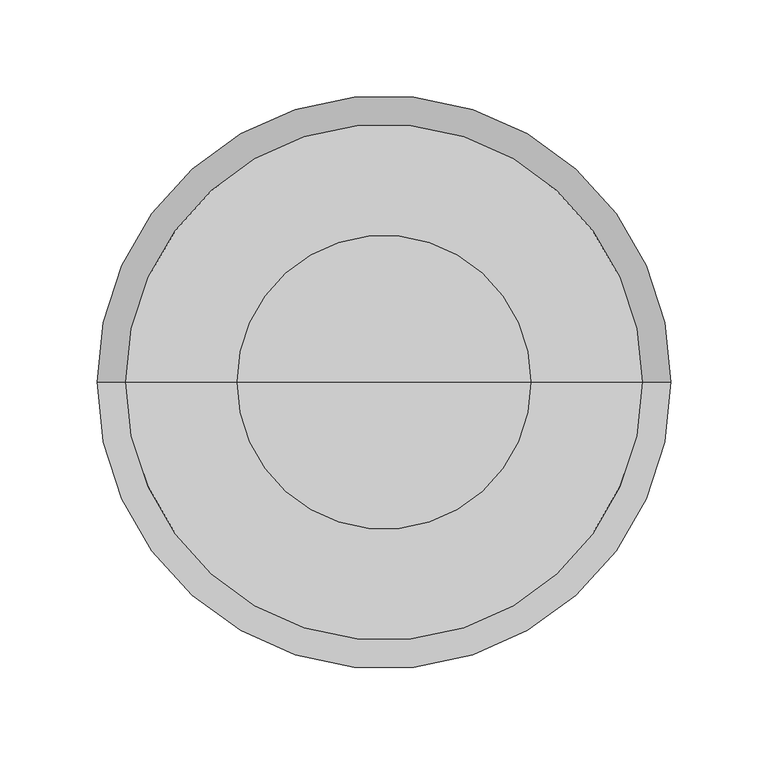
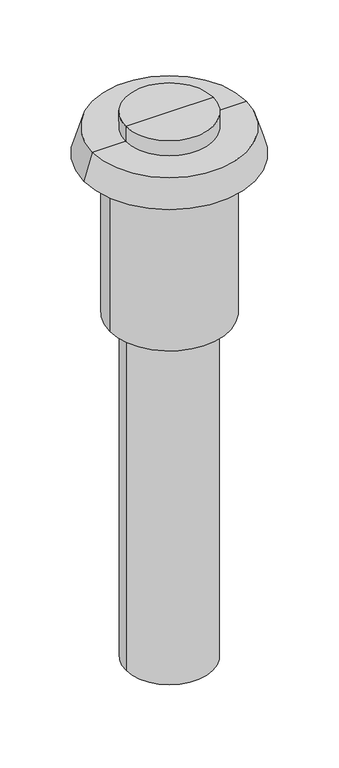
"""IFC4 building model written with IfcOpenShell, lengths in millimetres: air terminal geometry, NLRS_57_AIR_WPB_roof ventilation terminals_M&G : EPS Terra, ø150 - L=1000mm."""

from ifc_helpers import new_model, si_unit, frame, origin, place, context, project, spatial, polyline, circle_curve, source, transform, mapped, element, save
from ifc_brep_helpers import plane_surface, cylinder_surface, revolved_surface, advanced_brep


def air_terminal_7d90cc17(model_context):
    return source(origin(), model_context, "Body", "AdvancedBrep", [
        advanced_brep(
        [(75.7, 0.0, 365.0), (-75.7, 0.0, 365.0), (0.0, 0.0, 365.0), (75.7, 0.0, 338.0), (-75.7, 0.0, 338.0), (0.0, 0.0, 338.0)],
        [
            (0, 1, circle_curve(frame((0.0, 0.0, 365.0), z_axis=(0.0, 0.0, 1.0), x_axis=(-1.0, 0.0, 0.0)), 75.7)),
            (1, 2),
            (2, 0),
            (1, 0, circle_curve(frame((0.0, 0.0, 365.0), z_axis=(0.0, 0.0, 1.0), x_axis=(-1.0, 0.0, 0.0)), 75.7)),
            (3, 4, circle_curve(frame((0.0, 0.0, 338.0), z_axis=(0.0, 0.0, 1.0), x_axis=(-1.0, 0.0, 0.0)), 75.7)),
            (4, 1),
            (0, 3),
            (4, 3, circle_curve(frame((0.0, 0.0, 338.0), z_axis=(0.0, 0.0, 1.0), x_axis=(-1.0, 0.0, 0.0)), 75.7)),
            (5, 4),
            (3, 5),
        ],
        [
            plane_surface(frame((0.0, 0.0, 365.0), z_axis=(0.0, 0.0, 1.0), x_axis=(-1.0, 0.0, 0.0))),
            cylinder_surface(frame((0.0, 0.0, 2068.3150031), z_axis=(0.0, 0.0, -1.0), x_axis=(-1.0, 0.0, 0.0)), 75.7),
            plane_surface(frame((0.0, 0.0, 338.0), z_axis=(0.0, 0.0, -1.0), x_axis=(-1.0, 0.0, 0.0))),
        ],
        [
            (0, [[1, 2, 3]]),
            (0, [[4, -3, -2]]),
            (1, [[5, 6, -1, 7]]),
            (1, [[8, -7, -4, -6]]),
            (2, [[9, -5, 10]]),
            (2, [[-10, -8, -9]]),
        ],
    ),
        advanced_brep(
        [(103.2, 0.0, 290.0), (-103.2, 0.0, 290.0), (0.0, 0.0, 290.0), (103.2, 0.0, 0.0), (-103.2, 0.0, 0.0), (0.0, 0.0, 0.0)],
        [
            (0, 1, circle_curve(frame((0.0, 0.0, 290.0), z_axis=(0.0, 0.0, 1.0), x_axis=(-1.0, 0.0, 0.0)), 103.2)),
            (1, 2),
            (2, 0),
            (1, 0, circle_curve(frame((0.0, 0.0, 290.0), z_axis=(0.0, 0.0, 1.0), x_axis=(-1.0, 0.0, 0.0)), 103.2)),
            (3, 4, circle_curve(frame((0.0, 0.0, 0.0), z_axis=(0.0, 0.0, 1.0), x_axis=(-1.0, 0.0, 0.0)), 103.2)),
            (4, 1),
            (0, 3),
            (4, 3, circle_curve(frame((0.0, 0.0, 0.0), z_axis=(0.0, 0.0, 1.0), x_axis=(-1.0, 0.0, 0.0)), 103.2)),
            (5, 4),
            (3, 5),
        ],
        [
            plane_surface(frame((0.0, 0.0, 290.0), z_axis=(0.0, 0.0, 1.0), x_axis=(-1.0, 0.0, 0.0))),
            cylinder_surface(frame((0.0, 0.0, 2112.3150031), z_axis=(0.0, 0.0, -1.0), x_axis=(-1.0, 0.0, 0.0)), 103.2),
            plane_surface(frame((0.0, 0.0, 0.0), z_axis=(0.0, 0.0, -1.0), x_axis=(-1.0, 0.0, 0.0))),
        ],
        [
            (0, [[1, 2, 3]]),
            (0, [[4, -3, -2]]),
            (1, [[5, 6, -1, 7]]),
            (1, [[8, -7, -4, -6]]),
            (2, [[9, -5, 10]]),
            (2, [[-10, -8, -9]]),
        ],
    ),
        advanced_brep(
        [(133.0, 0.0, 338.0), (-133.0, 0.0, 338.0), (0.0, 0.0, 338.0), (147.75, 0.0, 290.0), (-147.75, 0.0, 290.0), (0.0, 0.0, 290.0)],
        [
            (0, 1, circle_curve(frame((0.0, 0.0, 338.0), z_axis=(0.0, 0.0, 1.0), x_axis=(-1.0, 0.0, 0.0)), 133.0)),
            (1, 2),
            (2, 0),
            (1, 0, circle_curve(frame((0.0, 0.0, 338.0), z_axis=(0.0, 0.0, 1.0), x_axis=(-1.0, 0.0, 0.0)), 133.0)),
            (3, 4, circle_curve(frame((0.0, 0.0, 290.0), z_axis=(0.0, 0.0, 1.0), x_axis=(-1.0, 0.0, 0.0)), 147.75)),
            (4, 1),
            (0, 3),
            (4, 3, circle_curve(frame((0.0, 0.0, 290.0), z_axis=(0.0, 0.0, 1.0), x_axis=(-1.0, 0.0, 0.0)), 147.75)),
            (5, 4),
            (3, 5),
        ],
        [
            plane_surface(frame((0.0, 0.0, 338.0), z_axis=(0.0, 0.0, 1.0), x_axis=(-1.0, 0.0, 0.0))),
            revolved_surface(polyline([(-133.0, 0.0, 338.0), (-147.75, 0.0, 290.0)]), (0.0, 0.0, 2058.3150031), (0.0, 0.0, -1.0)),
            plane_surface(frame((0.0, 0.0, 290.0), z_axis=(0.0, 0.0, -1.0), x_axis=(-1.0, 0.0, 0.0))),
        ],
        [
            (0, [[1, 2, 3]]),
            (0, [[4, -3, -2]]),
            (1, [[5, 6, -1, 7]]),
            (1, [[8, -7, -4, -6]]),
            (2, [[9, -5, 10]]),
            (2, [[-10, -8, -9]]),
        ],
    ),
        advanced_brep(
        [(75.0, 0.0, -630.0), (-75.0, 0.0, -630.0), (-75.0, 0.0, 0.0), (75.0, 0.0, 0.0), (0.0, 0.0, -630.0), (0.0, 0.0, 0.0)],
        [
            (0, 1, circle_curve(frame((0.0, 0.0, -630.0), z_axis=(0.0, 0.0, 1.0), x_axis=(-1.0, 0.0, 0.0)), 75.0)),
            (1, 2),
            (2, 3, circle_curve(frame((0.0, 0.0, 0.0), z_axis=(0.0, 0.0, -1.0), x_axis=(-1.0, 0.0, 0.0)), 75.0)),
            (3, 0),
            (1, 0, circle_curve(frame((0.0, 0.0, -630.0), z_axis=(0.0, 0.0, 1.0), x_axis=(-1.0, 0.0, 0.0)), 75.0)),
            (3, 2, circle_curve(frame((0.0, 0.0, 0.0), z_axis=(0.0, 0.0, -1.0), x_axis=(-1.0, 0.0, 0.0)), 75.0)),
            (4, 1),
            (0, 4),
            (2, 5),
            (5, 3),
        ],
        [
            cylinder_surface(frame((0.0, 0.0, 2058.3150031), z_axis=(0.0, 0.0, -1.0), x_axis=(-1.0, 0.0, 0.0)), 75.0),
            plane_surface(frame((0.0, 0.0, -630.0), z_axis=(0.0, 0.0, -1.0), x_axis=(-1.0, 0.0, 0.0))),
            plane_surface(frame((0.0, 0.0, 0.0), z_axis=(0.0, 0.0, 1.0), x_axis=(-1.0, 0.0, 0.0))),
        ],
        [
            (0, [[1, 2, 3, 4]]),
            (0, [[5, -4, 6, -2]]),
            (1, [[7, -1, 8]]),
            (1, [[-8, -5, -7]]),
            (2, [[-3, 9, 10]]),
            (2, [[-6, -10, -9]]),
        ],
    ),
    ])


if __name__ == "__main__":
    model = new_model("IFC4")
    model_context = context("Model", 3, world=origin())
    ifc_project = project(units=[si_unit("LENGTHUNIT", "METRE", prefix="MILLI")], contexts=[model_context])
    site = spatial("IfcSite", under=ifc_project)
    building = spatial("IfcBuilding", under=site)
    placement = place(None, origin())
    air_terminal_shape = air_terminal_7d90cc17(model_context)
    element("IfcAirTerminal", 1, ObjectType="NLRS_57_AIR_WPB_roof ventilation terminals_M&G : EPS Terra, ø150 - L=1000mm", at=placement, inside=building, context=model_context, shape_type="MappedRepresentation", body=[
        mapped(air_terminal_shape, transform((0.0, 0.0, 0.0), x_axis=(1.0, 0.0, 0.0), y_axis=(0.0, 1.0, 0.0), z_axis=(0.0, 0.0, 1.0))),
    ])
    save(model, "model.ifc")
